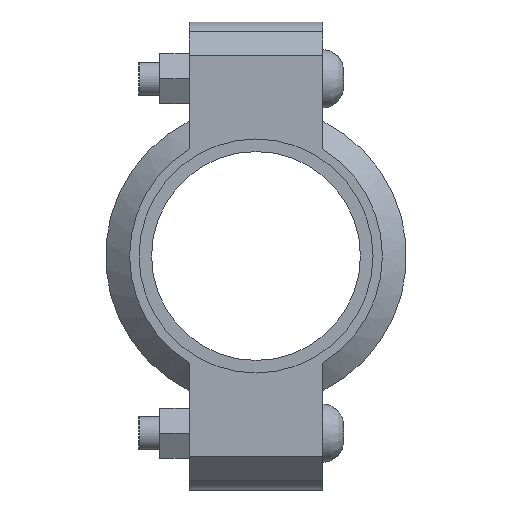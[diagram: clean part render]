
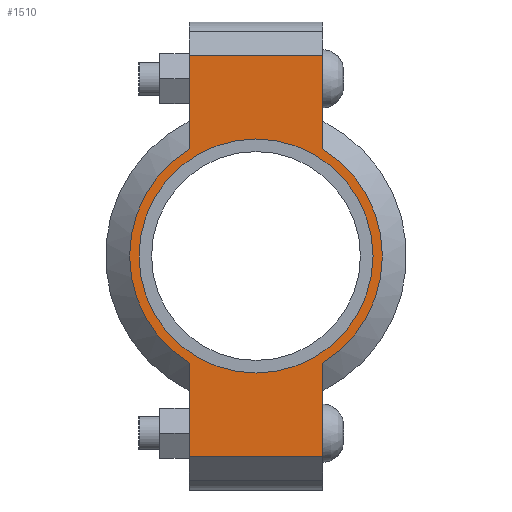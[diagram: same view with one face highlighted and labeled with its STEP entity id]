
A CAD part, left-side view. The second image highlights one B-rep face of the part: STEP entity #1510.
In plain terms, the highlighted planar face has unit normal (-1, 0, 0) as drawn and (0, 0, 1) by its records, which use the part's own axes.
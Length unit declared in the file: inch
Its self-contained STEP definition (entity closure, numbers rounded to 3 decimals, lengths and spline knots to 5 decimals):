
#134=LINE('',#2635,#227);
#142=LINE('',#2671,#235);
#149=LINE('',#2692,#242);
#158=LINE('',#2724,#251);
#159=LINE('',#2728,#252);
#160=LINE('',#2730,#253);
#227=VECTOR('',#2155,0.3937);
#235=VECTOR('',#2171,0.3937);
#242=VECTOR('',#2190,0.3937);
#251=VECTOR('',#2215,0.3937);
#252=VECTOR('',#2220,0.3937);
#253=VECTOR('',#2221,0.3937);
#309=FACE_BOUND('',#487,.T.);
#381=FACE_OUTER_BOUND('',#486,.T.);
#486=EDGE_LOOP('',(#1251,#1252,#1253,#1254,#1255,#1256,#1257,#1258));
#487=EDGE_LOOP('',(#1259));
#559=CIRCLE('',#1729,1.75);
#585=CIRCLE('',#1788,1.89);
#586=CIRCLE('',#1789,1.89);
#651=VERTEX_POINT('',#2451);
#694=VERTEX_POINT('',#2632);
#695=VERTEX_POINT('',#2634);
#706=VERTEX_POINT('',#2666);
#707=VERTEX_POINT('',#2670);
#714=VERTEX_POINT('',#2689);
#715=VERTEX_POINT('',#2691);
#725=VERTEX_POINT('',#2727);
#726=VERTEX_POINT('',#2729);
#807=EDGE_CURVE('',#651,#651,#559,.T.);
#868=EDGE_CURVE('',#695,#694,#134,.T.);
#882=EDGE_CURVE('',#707,#706,#142,.T.);
#892=EDGE_CURVE('',#715,#714,#149,.T.);
#907=EDGE_CURVE('',#707,#694,#158,.T.);
#908=EDGE_CURVE('',#706,#715,#585,.T.);
#909=EDGE_CURVE('',#725,#714,#159,.T.);
#910=EDGE_CURVE('',#725,#726,#160,.T.);
#911=EDGE_CURVE('',#726,#695,#586,.T.);
#1251=ORIENTED_EDGE('',*,*,#907,.F.);
#1252=ORIENTED_EDGE('',*,*,#882,.T.);
#1253=ORIENTED_EDGE('',*,*,#908,.T.);
#1254=ORIENTED_EDGE('',*,*,#892,.T.);
#1255=ORIENTED_EDGE('',*,*,#909,.F.);
#1256=ORIENTED_EDGE('',*,*,#910,.T.);
#1257=ORIENTED_EDGE('',*,*,#911,.T.);
#1258=ORIENTED_EDGE('',*,*,#868,.T.);
#1259=ORIENTED_EDGE('',*,*,#807,.T.);
#1352=PLANE('',#1787);
#1510=ADVANCED_FACE('',(#381,#309),#1352,.T.);
#1729=AXIS2_PLACEMENT_3D('',#2453,#2031,#2032);
#1787=AXIS2_PLACEMENT_3D('',#2725,#2216,#2217);
#1788=AXIS2_PLACEMENT_3D('',#2726,#2218,#2219);
#1789=AXIS2_PLACEMENT_3D('',#2731,#2222,#2223);
#2031=DIRECTION('center_axis',(0.,0.,-1.));
#2032=DIRECTION('ref_axis',(-1.,0.,0.));
#2155=DIRECTION('',(-1.,0.,0.));
#2171=DIRECTION('',(1.,0.,0.));
#2190=DIRECTION('',(1.,0.,0.));
#2215=DIRECTION('',(0.,1.,0.));
#2216=DIRECTION('center_axis',(0.,0.,1.));
#2217=DIRECTION('ref_axis',(1.,0.,0.));
#2218=DIRECTION('center_axis',(0.,0.,1.));
#2219=DIRECTION('ref_axis',(-1.,0.,0.));
#2220=DIRECTION('',(0.,-1.,0.));
#2221=DIRECTION('',(-1.,0.,0.));
#2222=DIRECTION('center_axis',(0.,0.,1.));
#2223=DIRECTION('ref_axis',(-1.,0.,0.));
#2451=CARTESIAN_POINT('',(1.75,0.,0.94));
#2453=CARTESIAN_POINT('Origin',(0.,0.,0.94));
#2632=CARTESIAN_POINT('',(-3.,1.,0.94));
#2634=CARTESIAN_POINT('',(-1.60378,1.,0.94));
#2635=CARTESIAN_POINT('',(-3.5,1.,0.94));
#2666=CARTESIAN_POINT('',(-1.60378,-1.,0.94));
#2670=CARTESIAN_POINT('',(-3.,-1.,0.94));
#2671=CARTESIAN_POINT('',(3.5,-1.,0.94));
#2689=CARTESIAN_POINT('',(3.,-1.,0.94));
#2691=CARTESIAN_POINT('',(1.60378,-1.,0.94));
#2692=CARTESIAN_POINT('',(3.5,-1.,0.94));
#2724=CARTESIAN_POINT('',(-3.,0.5,0.94));
#2725=CARTESIAN_POINT('Origin',(0.,0.,
0.94));
#2726=CARTESIAN_POINT('Origin',(0.,0.,0.94));
#2727=CARTESIAN_POINT('',(3.,1.,0.94));
#2728=CARTESIAN_POINT('',(3.,-0.5,0.94));
#2729=CARTESIAN_POINT('',(1.60378,1.,0.94));
#2730=CARTESIAN_POINT('',(-3.5,1.,0.94));
#2731=CARTESIAN_POINT('Origin',(0.,0.,0.94));
